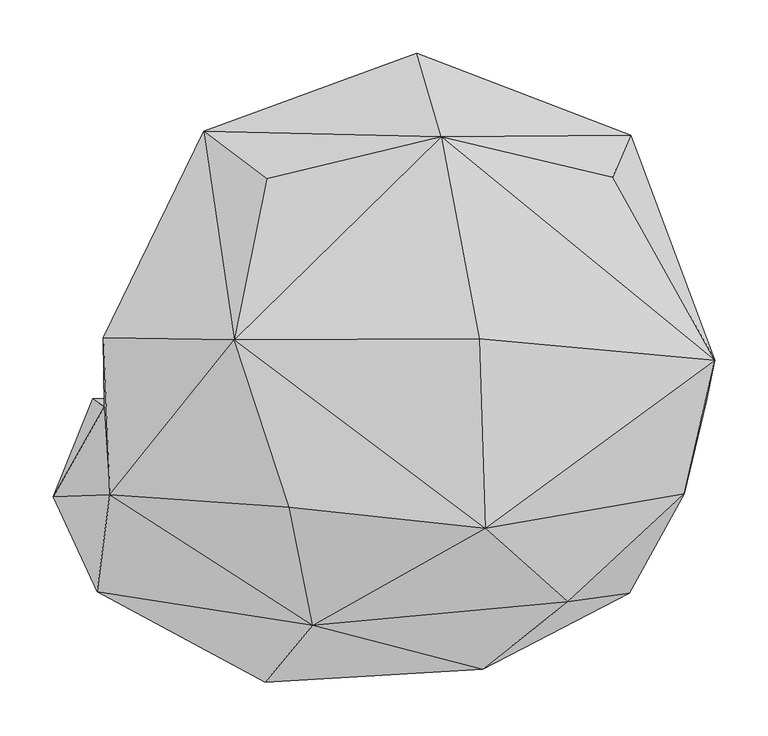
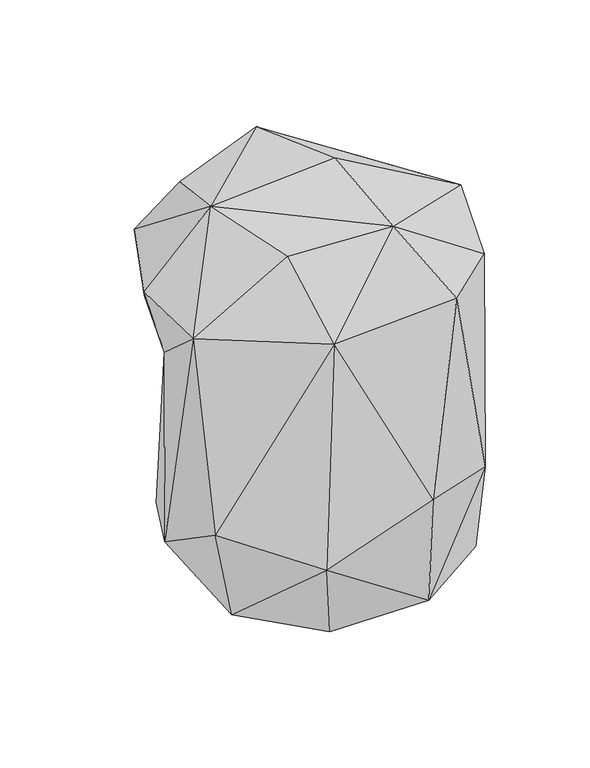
"""IFC4 building model written with IfcOpenShell, lengths in millimetres: geographic element geometry, Enscape AssetDefinition - Creeper Plant 016 Bower Vine : Enscape AssetDefinition - Creeper Plant 016 Bower Vine."""

import ifcopenshell
import ifcopenshell.guid

model = None  # the IFC model being written
_history = None  # IfcOwnerHistory: only IFC2X3 demands one
_inside = {}  # id of a spatial element -> (the spatial element, [elements in it])
_under = {}  # id of a project, library or spatial element -> (it, [spatial elements below it])
_declared = {}  # id of a project -> (the project, [libraries it declares])
_typed = {}  # id of a type object -> (the type object, [elements of that type])
_made_of = {}  # id of a material, layer set ... -> (it, [elements and type objects made of it])


def new_model(schema):
    """Start an empty IFC model of exactly this schema.

    Asked for "IFC4X3", IfcOpenShell would pick the latest addendum, in which some entities
    have other attributes; the version numbers below select the first issue.
    IFC2X3 requires an IfcOwnerHistory on every rooted entity: one is made here for all.
    """
    global model, _history
    if schema == "IFC4X3":
        model = ifcopenshell.file(schema_version=(4, 3, 0, 0))
    else:
        model = ifcopenshell.file(schema=schema)
    _inside.clear()
    _under.clear()
    _declared.clear()
    _typed.clear()
    _made_of.clear()
    _history = None
    if model.schema == "IFC2X3":
        org = make("IfcOrganization", Name="unknown")
        user = make(
            "IfcPersonAndOrganization",
            ThePerson=make("IfcPerson", FamilyName="unknown"),
            TheOrganization=org,
        )
        app = make(
            "IfcApplication",
            ApplicationDeveloper=org,
            Version="unknown",
            ApplicationFullName="unknown",
            ApplicationIdentifier="unknown",
        )
        _history = make(
            "IfcOwnerHistory",
            OwningUser=user,
            OwningApplication=app,
            ChangeAction="ADDED",
            CreationDate=0,
        )
    return model


def make(cls, **values):
    """One entity of the class cls with the attributes given. An attribute that is None is left unset."""
    return model.create_entity(
        cls, **{name: value for name, value in values.items() if value is not None}
    )


def rooted(cls, **values):
    """An entity with a GlobalId (a new one), such as an element, a storey or a relation."""
    return make(cls, GlobalId=ifcopenshell.guid.new(), OwnerHistory=_history, **values)


def si_unit(unit_type, name, prefix=None):
    """IfcSIUnit, for example si_unit("LENGTHUNIT", "METRE", prefix="MILLI")."""
    return make("IfcSIUnit", UnitType=unit_type, Prefix=prefix, Name=name)


def assignment(units):
    """IfcUnitAssignment: the units of a project."""
    return None if units is None else make("IfcUnitAssignment", Units=units)


def point(xyz):
    """IfcCartesianPoint."""
    return None if xyz is None else make("IfcCartesianPoint", Coordinates=xyz)


def direction(xyz):
    """IfcDirection."""
    return None if xyz is None else make("IfcDirection", DirectionRatios=xyz)


def frame(location, z_axis=None, x_axis=None):
    """IfcAxis2Placement3D, a coordinate frame: its origin and axes. An axis left out is left unset."""
    return make(
        "IfcAxis2Placement3D",
        Location=point(location),
        Axis=direction(z_axis),
        RefDirection=direction(x_axis),
    )


def origin():
    """The frame at (0, 0, 0) with its axes left unset."""
    return frame((0.0, 0.0, 0.0))


def place(relative_to, where):
    """IfcLocalPlacement: puts the frame where relative to a parent placement (None: the world)."""
    return make(
        "IfcLocalPlacement", PlacementRelTo=relative_to, RelativePlacement=where
    )


def context(
    kind, dimensions, precision=None, world=None, true_north=None, identifier=None
):
    """IfcGeometricRepresentationContext, for example the 3D "Model" context."""
    return make(
        "IfcGeometricRepresentationContext",
        ContextIdentifier=identifier,
        ContextType=kind,
        CoordinateSpaceDimension=dimensions,
        Precision=precision,
        WorldCoordinateSystem=world,
        TrueNorth=true_north,
    )


def project(units=None, contexts=None):
    """IfcProject with its units and contexts."""
    return rooted(
        "IfcProject",
        Name="project",
        RepresentationContexts=contexts,
        UnitsInContext=assignment(units),
    )


def spatial(cls, under=None, at=None, **own):
    """A site, building, storey or space (cls), placed at a placement, below another one or the project."""
    s = rooted(cls, ObjectPlacement=at, **own)
    if under is not None:
        _under.setdefault(under.id(), (under, []))[1].append(s)
    return s


def point_list(points):
    """IfcCartesianPointList2D or 3D."""
    cls = (
        "IfcCartesianPointList2D" if len(points[0]) == 2 else "IfcCartesianPointList3D"
    )
    return make(cls, CoordList=points)


def triangles(points, corners, closed=None, point_numbers=None):
    """IfcTriangulatedFaceSet: each triangle names its three corners, points numbered from 1."""
    return make(
        "IfcTriangulatedFaceSet",
        Coordinates=point_list(points),
        Closed=closed,
        CoordIndex=corners,
        PnIndex=point_numbers,
    )


def shape(context_of_items, identifier, shape_type, items):
    """IfcShapeRepresentation: the items that make up one representation, for example the "Body"."""
    return make(
        "IfcShapeRepresentation",
        ContextOfItems=context_of_items,
        RepresentationIdentifier=identifier,
        RepresentationType=shape_type,
        Items=items,
    )


def source(mapping_origin, context_of_items, identifier, shape_type, items):
    """IfcRepresentationMap: a shape defined once, which mapped items show again and again."""
    return make(
        "IfcRepresentationMap",
        MappingOrigin=mapping_origin,
        MappedRepresentation=shape(context_of_items, identifier, shape_type, items),
    )


def transform(
    local_origin,
    x_axis=None,
    y_axis=None,
    z_axis=None,
    scale=None,
    scale2=None,
    scale3=None,
    uniform=True,
):
    """IfcCartesianTransformationOperator3D, or its non-uniform kind. x_axis, y_axis, z_axis: its Axis1, 2, 3."""
    if uniform:
        return make(
            "IfcCartesianTransformationOperator3D",
            Axis1=direction(x_axis),
            Axis2=direction(y_axis),
            LocalOrigin=point(local_origin),
            Scale=scale,
            Axis3=direction(z_axis),
        )
    return make(
        "IfcCartesianTransformationOperator3DnonUniform",
        Axis1=direction(x_axis),
        Axis2=direction(y_axis),
        LocalOrigin=point(local_origin),
        Scale=scale,
        Axis3=direction(z_axis),
        Scale2=scale2,
        Scale3=scale3,
    )


def mapped(mapping_source, mapping_target):
    """IfcMappedItem: shows the shape of a source again, moved by a transform."""
    return make(
        "IfcMappedItem", MappingSource=mapping_source, MappingTarget=mapping_target
    )


def made_of(thing, what):
    """Note that an element or type object is made of a material, layer set ...; save() writes the relation."""
    if what is not None:
        _made_of.setdefault(what.id(), (what, []))[1].append(thing)
    return thing


def element(
    cls,
    number,
    at=None,
    inside=None,
    cuts=None,
    type_object=None,
    material=None,
    context=None,
    identifier="Body",
    shape_type=None,
    held_by="IfcProductDefinitionShape",
    body=None,
    shapes=None,
    **own,
):
    """One element of the class cls, such as IfcWall. Its Tag is "e" and its number.

    at: its placement. inside: the storey or other place that contains it. cuts: it is an
    opening in that element (IfcRelVoidsElement). A single representation is given by context,
    identifier, shape_type and body (its items); several are given by shapes. held_by: the class
    of the entity that holds the representations. save() writes the other relations.
    """
    e = rooted(cls, Tag="e%d" % number, ObjectPlacement=at, **own)
    if body is not None:
        shapes = [shape(context, identifier, shape_type, body)]
    if shapes is not None:
        e.Representation = make(held_by, Representations=shapes)
    if inside is not None:
        _inside.setdefault(inside.id(), (inside, []))[1].append(e)
    if cuts is not None:
        rooted(
            "IfcRelVoidsElement", RelatingBuildingElement=cuts, RelatedOpeningElement=e
        )
    if type_object is not None:
        _typed.setdefault(type_object.id(), (type_object, []))[1].append(e)
    return made_of(e, material)


def aggregate(whole, parts):
    """IfcRelAggregates: a whole, such as a stair, and the parts it consists of."""
    return rooted("IfcRelAggregates", RelatingObject=whole, RelatedObjects=parts)


def save(model, path):
    """Write the relations noted so far, then the file.

    IfcRelAggregates (storeys below a building ...), IfcRelContainedInSpatialStructure (elements
    in a storey), IfcRelDefinesByType, IfcRelAssociatesMaterial and IfcRelDeclares: one each for
    every whole, place, type object, material and project.
    """
    for whole, parts in _under.values():
        aggregate(whole, parts)
    for where, things in _inside.values():
        rooted(
            "IfcRelContainedInSpatialStructure",
            RelatedElements=things,
            RelatingStructure=where,
        )
    for kind, things in _typed.values():
        rooted("IfcRelDefinesByType", RelatedObjects=things, RelatingType=kind)
    for what, things in _made_of.values():
        rooted("IfcRelAssociatesMaterial", RelatedObjects=things, RelatingMaterial=what)
    for by, libraries in _declared.values():
        rooted("IfcRelDeclares", RelatingContext=by, RelatedDefinitions=libraries)
    model.write(path)


def geographic_element_f069a1d7(model_context):
    return source(origin(), model_context, "Body", "Tessellation", [
        triangles([(-286.0200053, -7.3199997, 21.2090002), (278.5019867, -2.8560002, -2.14), (223.6199987, 0.0, -161.9420048), (258.1779911, -88.9549991, 72.0159985), (238.3199917, -79.6829996, -155.8280066), (-296.8749932, -0.002, -273.7349812), (223.8599914, 0.0, -367.5870106), (206.1489903, -182.4650072, -269.3389923), (186.833, -185.1910036, -415.6300083), (68.7709976, -253.4230124, -242.735002), (253.4590023, -86.4910052, -407.6130195), (157.4020021, -85.9239977, -514.6139737), (130.9839925, 0.0, -487.8529982), (-85.2490025, -188.7719986, -486.0050005), (-61.728, 0.0, -507.7409921), (-43.2710007, -81.7150068, -549.7099783), (-221.0409956, 0.0, -419.6809965), (-238.2279915, -139.4120028, -428.5799809), (-333.9150106, -91.6730018, -281.7490088), (-135.2069997, -265.9290078, -301.2380081), (-292.8070184, -181.1169971, -228.5960032), (88.9019954, -204.8150056, -475.3879887), (-280.7989941, -90.1559977, 95.733001), (-164.1959915, 55.605999, 224.7729989), (71.4010015, -121.4789949, 211.3259999), (-90.334993, -212.310006, 92.4540042), (148.8039986, -190.477, 85.4250001), (-112.6319968, -101.6919941, 205.2300057), (191.1060132, 208.0799953, 109.3740016), (286.5129985, 35.9999987, 121.2170015), (30.0829998, 246.0729887, 196.7069976), (65.7529996, 56.5730003, 239.2520024), (-133.8129895, 206.4940092, 171.3399958), (7.2110004, 324.1310148, 30.5380002), (207.7539977, 247.367986, 0.0), (-192.7600001, 251.1279854, 72.072999), (3.804, 311.3049809, 0.0), (-99.1509974, 265.9110038, 0.0), (-222.9559949, 167.0900009, 4.533), (-286.8990033, 57.2880003, 100.4450045)], [[40, 39, 1], [40, 36, 39], [36, 40, 24], [33, 36, 24], [38, 39, 36], [36, 37, 38], [36, 34, 37], [34, 35, 37], [38, 37, 35], [35, 39, 38], [35, 1, 39], [35, 34, 31], [31, 33, 24], [33, 31, 36], [29, 35, 31], [34, 36, 31], [31, 24, 32], [30, 31, 32], [29, 30, 35], [30, 29, 31], [24, 25, 32], [25, 30, 32], [24, 28, 25], [10, 27, 26], [25, 28, 26], [26, 27, 25], [40, 1, 23], [26, 28, 23], [28, 24, 23], [40, 23, 24], [1, 19, 23], [23, 19, 21], [26, 23, 21], [10, 20, 22], [21, 20, 26], [10, 26, 20], [22, 20, 14], [20, 21, 18], [20, 18, 14], [18, 21, 19], [19, 17, 18], [1, 6, 19], [6, 17, 19], [15, 17, 6], [17, 16, 18], [17, 15, 16], [16, 22, 14], [16, 14, 18], [22, 12, 9], [16, 12, 22], [15, 13, 16], [12, 16, 13], [6, 13, 15], [6, 7, 13], [13, 7, 11], [11, 12, 13], [11, 9, 12], [8, 10, 22], [11, 8, 9], [8, 27, 10], [8, 22, 9], [27, 8, 4], [4, 30, 25], [4, 25, 27], [7, 5, 11], [5, 4, 8], [5, 8, 11], [7, 3, 5], [6, 3, 7], [3, 2, 5], [2, 35, 30], [2, 4, 5], [4, 2, 30], [6, 2, 3], [6, 1, 2], [35, 2, 1]]),
    ])


if __name__ == "__main__":
    model = new_model("IFC4")
    model_context = context("Model", 3, world=origin())
    ifc_project = project(units=[si_unit("LENGTHUNIT", "METRE", prefix="MILLI")], contexts=[model_context])
    site = spatial("IfcSite", under=ifc_project)
    building = spatial("IfcBuilding", under=site)
    placement = place(None, origin())
    geographic_element_shape = geographic_element_f069a1d7(model_context)
    element("IfcGeographicElement", 1, ObjectType="Enscape AssetDefinition - Creeper Plant 016 Bower Vine : Enscape AssetDefinition - Creeper Plant 016 Bower Vine", at=placement, inside=building, context=model_context, shape_type="MappedRepresentation", body=[
        mapped(geographic_element_shape, transform((0.0, 0.0, 0.0), x_axis=(1.0, 0.0, 0.0), y_axis=(0.0, 1.0, 0.0), z_axis=(0.0, 0.0, 1.0))),
    ])
    save(model, "model.ifc")
